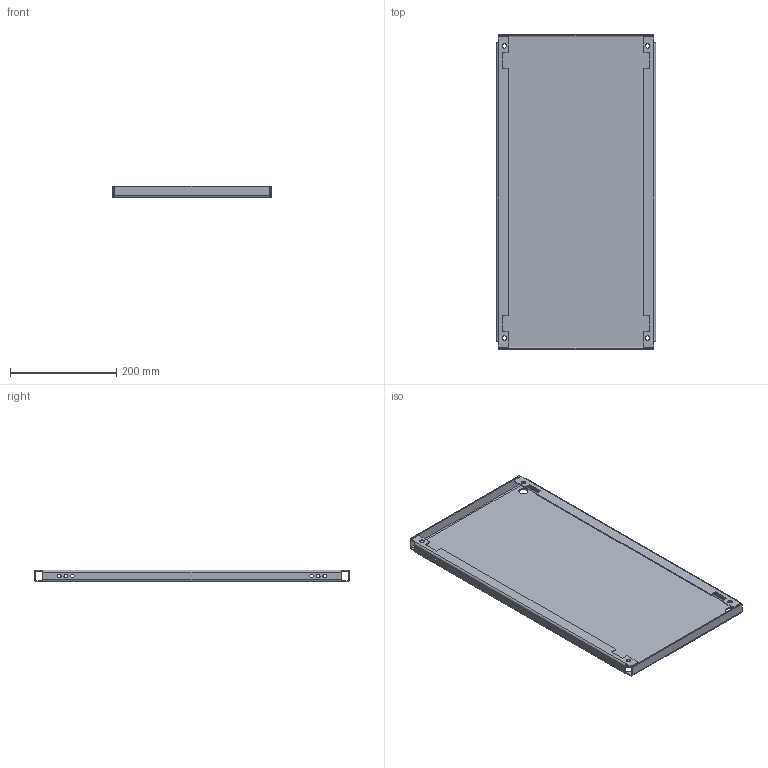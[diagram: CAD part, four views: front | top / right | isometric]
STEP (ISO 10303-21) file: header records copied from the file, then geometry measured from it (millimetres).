
FILE_DESCRIPTION(('STEP AP203'), '1');
FILE_NAME('3550 Ñåêöèîííàÿ ìîíòàæíàÿ ïàíåëü', '', ('UNSPECIFIED'), ('UNSPECIFIED'), 'C3D Converter', 'C3D Toolkit', '');
FILE_SCHEMA(('CONFIG_CONTROL_DESIGN'));
Length unit declared in the file: millimetre
Products named in the file (1): 3550.60.40
Bounding box: 300 x 592 x 22 mm (x, y, z)
Volume: 459749.3 mm3; surface area: 465275.1 mm2
Topology: 1 solids, 1 shells, 118 faces, 300 edges, 184 vertices
Faces by surface type: plane 66, cylinder 52
Full cylindrical faces by diameter (mm): 7 x12, 8 x4, 17 x4
Entity records: 3544 total; most frequent: DIRECTION 622, CARTESIAN_POINT 583, ORIENTED_EDGE 560, EDGE_CURVE 280, AXIS2_PLACEMENT_3D 223, VERTEX_POINT 184, EDGE_LOOP 178, LINE 176
